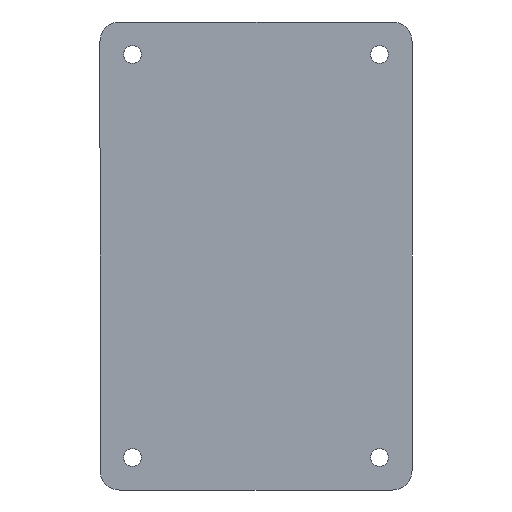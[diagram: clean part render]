
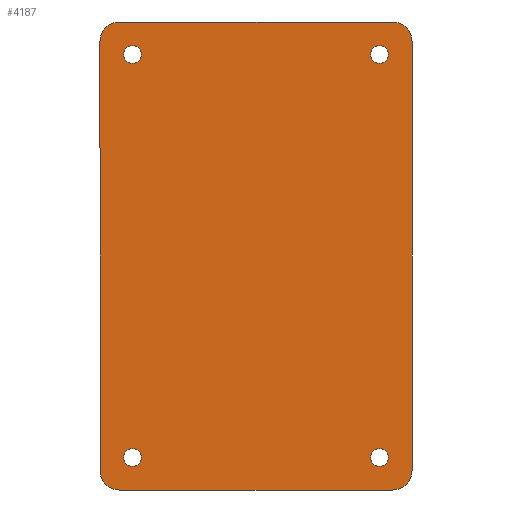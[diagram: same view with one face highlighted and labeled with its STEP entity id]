
A CAD part, front view. The second image highlights one B-rep face of the part: STEP entity #4187.
In plain terms, the highlighted planar face has unit normal (0, -1, 0).
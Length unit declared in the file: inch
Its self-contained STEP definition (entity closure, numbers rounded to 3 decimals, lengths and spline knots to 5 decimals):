
#13 = ORIENTED_EDGE ( 'NONE', *, *, #5991, .F. ) ;
#26 = CARTESIAN_POINT ( 'NONE',  ( 4.75, 0.19, -7.40625 ) ) ;
#40 = CARTESIAN_POINT ( 'NONE',  ( -5.25, 0.19, -9. ) ) ;
#157 = DIRECTION ( 'NONE',  ( 0., 0., -1. ) ) ;
#179 = CARTESIAN_POINT ( 'NONE',  ( -4.75, 0.19, -7.75 ) ) ;
#197 = VECTOR ( 'NONE', #6086, 39.37008 ) ;
#382 = DIRECTION ( 'NONE',  ( 0., -1., 0. ) ) ;
#435 = DIRECTION ( 'NONE',  ( 0., -1., 0. ) ) ;
#499 = VERTEX_POINT ( 'NONE', #4905 ) ;
#514 = AXIS2_PLACEMENT_3D ( 'NONE', #1951, #5851, #2512 ) ;
#516 = VERTEX_POINT ( 'NONE', #2374 ) ;
#557 = AXIS2_PLACEMENT_3D ( 'NONE', #4136, #777, #4694 ) ;
#563 = VERTEX_POINT ( 'NONE', #5242 ) ;
#704 = ORIENTED_EDGE ( 'NONE', *, *, #4863, .T. ) ;
#732 = DIRECTION ( 'NONE',  ( 0., 0., -1. ) ) ;
#777 = DIRECTION ( 'NONE',  ( 0., -1., 0. ) ) ;
#892 = ORIENTED_EDGE ( 'NONE', *, *, #3008, .T. ) ;
#905 = EDGE_CURVE ( 'NONE', #1303, #563, #1861, .T. ) ;
#923 = CARTESIAN_POINT ( 'NONE',  ( -4.75, 0.19, -7.40625 ) ) ;
#946 = CARTESIAN_POINT ( 'NONE',  ( -4.75, 0.19, 7.75 ) ) ;
#988 = CARTESIAN_POINT ( 'NONE',  ( -5.25, 0.19, 9. ) ) ;
#1027 = CIRCLE ( 'NONE', #3582, 0.34375 ) ;
#1042 = VERTEX_POINT ( 'NONE', #40 ) ;
#1043 = FACE_BOUND ( 'NONE', #4004, .T. ) ;
#1046 = DIRECTION ( 'NONE',  ( 0., 0., -1. ) ) ;
#1072 = CARTESIAN_POINT ( 'NONE',  ( -6., 0.19, 8.25 ) ) ;
#1131 = EDGE_CURVE ( 'NONE', #2453, #6253, #1340, .T. ) ;
#1177 = LINE ( 'NONE', #2776, #6937 ) ;
#1205 = FACE_BOUND ( 'NONE', #2310, .T. ) ;
#1303 = VERTEX_POINT ( 'NONE', #7091 ) ;
#1340 = CIRCLE ( 'NONE', #514, 0.34375 ) ;
#1358 = CARTESIAN_POINT ( 'NONE',  ( 4.75, 0.19, 7.40625 ) ) ;
#1369 = EDGE_CURVE ( 'NONE', #5912, #3814, #2572, .T. ) ;
#1516 = DIRECTION ( 'NONE',  ( 0., 0., -1. ) ) ;
#1583 = CARTESIAN_POINT ( 'NONE',  ( 5.25, 0.19, -9. ) ) ;
#1727 = VECTOR ( 'NONE', #5918, 39.37008 ) ;
#1769 = AXIS2_PLACEMENT_3D ( 'NONE', #2596, #6463, #3161 ) ;
#1823 = EDGE_LOOP ( 'NONE', ( #704, #892, #2556, #4800, #6687, #6181, #3858, #4132 ) ) ;
#1861 = LINE ( 'NONE', #1072, #197 ) ;
#1951 = CARTESIAN_POINT ( 'NONE',  ( 4.75, 0.19, -7.75 ) ) ;
#2085 = VECTOR ( 'NONE', #5352, 39.37008 ) ;
#2102 = EDGE_CURVE ( 'NONE', #499, #4709, #3570, .T. ) ;
#2110 = ORIENTED_EDGE ( 'NONE', *, *, #6891, .F. ) ;
#2242 = CIRCLE ( 'NONE', #3718, 0.75 ) ;
#2310 = EDGE_LOOP ( 'NONE', ( #3249, #3076 ) ) ;
#2374 = CARTESIAN_POINT ( 'NONE',  ( 6., 0.19, -8.25 ) ) ;
#2453 = VERTEX_POINT ( 'NONE', #5412 ) ;
#2462 = AXIS2_PLACEMENT_3D ( 'NONE', #6257, #2941, #6809 ) ;
#2512 = DIRECTION ( 'NONE',  ( 0., 0., -1. ) ) ;
#2556 = ORIENTED_EDGE ( 'NONE', *, *, #4604, .T. ) ;
#2572 = CIRCLE ( 'NONE', #3372, 0.34375 ) ;
#2596 = CARTESIAN_POINT ( 'NONE',  ( -5.25, 0.19, -8.25 ) ) ;
#2681 = CARTESIAN_POINT ( 'NONE',  ( 4.75, 0.19, 7.75 ) ) ;
#2699 = DIRECTION ( 'NONE',  ( 0., -1., 0. ) ) ;
#2745 = CARTESIAN_POINT ( 'NONE',  ( -4.75, 0.19, -7.75 ) ) ;
#2776 = CARTESIAN_POINT ( 'NONE',  ( -5.25, 0.19, -9. ) ) ;
#2827 = AXIS2_PLACEMENT_3D ( 'NONE', #6815, #3513, #157 ) ;
#2941 = DIRECTION ( 'NONE',  ( 0., -1., 0. ) ) ;
#3008 = EDGE_CURVE ( 'NONE', #1042, #7038, #1177, .T. ) ;
#3076 = ORIENTED_EDGE ( 'NONE', *, *, #7191, .F. ) ;
#3138 = ORIENTED_EDGE ( 'NONE', *, *, #1369, .F. ) ;
#3157 = VERTEX_POINT ( 'NONE', #6215 ) ;
#3161 = DIRECTION ( 'NONE',  ( 0., 0., -1. ) ) ;
#3215 = CARTESIAN_POINT ( 'NONE',  ( 5.25, 0.19, 9. ) ) ;
#3221 = ORIENTED_EDGE ( 'NONE', *, *, #5060, .F. ) ;
#3249 = ORIENTED_EDGE ( 'NONE', *, *, #4968, .F. ) ;
#3254 = DIRECTION ( 'NONE',  ( 0., 0., -1. ) ) ;
#3289 = AXIS2_PLACEMENT_3D ( 'NONE', #946, #4857, #1516 ) ;
#3304 = DIRECTION ( 'NONE',  ( 0., 0., -1. ) ) ;
#3372 = AXIS2_PLACEMENT_3D ( 'NONE', #2745, #6613, #3304 ) ;
#3402 = LINE ( 'NONE', #5373, #1727 ) ;
#3513 = DIRECTION ( 'NONE',  ( 0., -1., 0. ) ) ;
#3570 = LINE ( 'NONE', #3215, #2085 ) ;
#3574 = EDGE_LOOP ( 'NONE', ( #3138, #13 ) ) ;
#3582 = AXIS2_PLACEMENT_3D ( 'NONE', #179, #4096, #732 ) ;
#3718 = AXIS2_PLACEMENT_3D ( 'NONE', #6024, #2699, #6566 ) ;
#3734 = CARTESIAN_POINT ( 'NONE',  ( 5.25, 0.19, -8.25 ) ) ;
#3788 = CARTESIAN_POINT ( 'NONE',  ( -5.25, 0.19, 8.25 ) ) ;
#3814 = VERTEX_POINT ( 'NONE', #923 ) ;
#3821 = VERTEX_POINT ( 'NONE', #4378 ) ;
#3836 = CARTESIAN_POINT ( 'NONE',  ( 6., 0.19, 8.25 ) ) ;
#3858 = ORIENTED_EDGE ( 'NONE', *, *, #5030, .T. ) ;
#3892 = CARTESIAN_POINT ( 'NONE',  ( -4.75, 0.19, 8.09375 ) ) ;
#4004 = EDGE_LOOP ( 'NONE', ( #5650, #5750 ) ) ;
#4005 = FACE_BOUND ( 'NONE', #5125, .T. ) ;
#4096 = DIRECTION ( 'NONE',  ( 0., -1., 0. ) ) ;
#4132 = ORIENTED_EDGE ( 'NONE', *, *, #905, .T. ) ;
#4136 = CARTESIAN_POINT ( 'NONE',  ( 4.75, 0.19, 7.75 ) ) ;
#4187 = ADVANCED_FACE ( 'NONE', ( #1043, #6965, #4005, #1205, #6768 ), #7152, .T. ) ;
#4188 = VERTEX_POINT ( 'NONE', #3836 ) ;
#4194 = CIRCLE ( 'NONE', #5525, 0.34375 ) ;
#4300 = DIRECTION ( 'NONE',  ( 0., 0., -1. ) ) ;
#4347 = DIRECTION ( 'NONE',  ( 0., 0., -1. ) ) ;
#4378 = CARTESIAN_POINT ( 'NONE',  ( 4.75, 0.19, 8.09375 ) ) ;
#4384 = CARTESIAN_POINT ( 'NONE',  ( -5.25, 0.19, -8.25 ) ) ;
#4405 = DIRECTION ( 'NONE',  ( 0., -1., 0. ) ) ;
#4417 = AXIS2_PLACEMENT_3D ( 'NONE', #3788, #435, #4347 ) ;
#4476 = VERTEX_POINT ( 'NONE', #1358 ) ;
#4541 = CIRCLE ( 'NONE', #3289, 0.34375 ) ;
#4542 = CARTESIAN_POINT ( 'NONE',  ( -4.75, 0.19, -8.09375 ) ) ;
#4604 = EDGE_CURVE ( 'NONE', #7038, #516, #6865, .T. ) ;
#4694 = DIRECTION ( 'NONE',  ( 0., 0., -1. ) ) ;
#4709 = VERTEX_POINT ( 'NONE', #988 ) ;
#4800 = ORIENTED_EDGE ( 'NONE', *, *, #4880, .T. ) ;
#4857 = DIRECTION ( 'NONE',  ( 0., -1., 0. ) ) ;
#4863 = EDGE_CURVE ( 'NONE', #563, #1042, #6161, .T. ) ;
#4880 = EDGE_CURVE ( 'NONE', #516, #4188, #3402, .T. ) ;
#4905 = CARTESIAN_POINT ( 'NONE',  ( 5.25, 0.19, 9. ) ) ;
#4968 = EDGE_CURVE ( 'NONE', #3157, #6694, #4541, .T. ) ;
#5030 = EDGE_CURVE ( 'NONE', #4709, #1303, #5841, .T. ) ;
#5060 = EDGE_CURVE ( 'NONE', #3821, #4476, #4194, .T. ) ;
#5125 = EDGE_LOOP ( 'NONE', ( #2110, #3221 ) ) ;
#5242 = CARTESIAN_POINT ( 'NONE',  ( -6., 0.19, -8.25 ) ) ;
#5294 = AXIS2_PLACEMENT_3D ( 'NONE', #3734, #382, #4300 ) ;
#5352 = DIRECTION ( 'NONE',  ( -1., 0., 0. ) ) ;
#5373 = CARTESIAN_POINT ( 'NONE',  ( 6., 0.19, -8.25 ) ) ;
#5412 = CARTESIAN_POINT ( 'NONE',  ( 4.75, 0.19, -8.09375 ) ) ;
#5479 = CIRCLE ( 'NONE', #2462, 0.34375 ) ;
#5525 = AXIS2_PLACEMENT_3D ( 'NONE', #2681, #6552, #3254 ) ;
#5636 = CIRCLE ( 'NONE', #557, 0.34375 ) ;
#5650 = ORIENTED_EDGE ( 'NONE', *, *, #1131, .F. ) ;
#5750 = ORIENTED_EDGE ( 'NONE', *, *, #5953, .F. ) ;
#5841 = CIRCLE ( 'NONE', #4417, 0.75 ) ;
#5851 = DIRECTION ( 'NONE',  ( 0., -1., 0. ) ) ;
#5912 = VERTEX_POINT ( 'NONE', #4542 ) ;
#5918 = DIRECTION ( 'NONE',  ( 0., 0., 1. ) ) ;
#5953 = EDGE_CURVE ( 'NONE', #6253, #2453, #5479, .T. ) ;
#5991 = EDGE_CURVE ( 'NONE', #3814, #5912, #1027, .T. ) ;
#6024 = CARTESIAN_POINT ( 'NONE',  ( 5.25, 0.19, 8.25 ) ) ;
#6086 = DIRECTION ( 'NONE',  ( 0., 0., -1. ) ) ;
#6148 = AXIS2_PLACEMENT_3D ( 'NONE', #4384, #4405, #1046 ) ;
#6161 = CIRCLE ( 'NONE', #1769, 0.75 ) ;
#6181 = ORIENTED_EDGE ( 'NONE', *, *, #2102, .T. ) ;
#6215 = CARTESIAN_POINT ( 'NONE',  ( -4.75, 0.19, 7.40625 ) ) ;
#6223 = CIRCLE ( 'NONE', #2827, 0.34375 ) ;
#6253 = VERTEX_POINT ( 'NONE', #26 ) ;
#6257 = CARTESIAN_POINT ( 'NONE',  ( 4.75, 0.19, -7.75 ) ) ;
#6463 = DIRECTION ( 'NONE',  ( 0., -1., 0. ) ) ;
#6552 = DIRECTION ( 'NONE',  ( 0., -1., 0. ) ) ;
#6560 = EDGE_CURVE ( 'NONE', #4188, #499, #2242, .T. ) ;
#6566 = DIRECTION ( 'NONE',  ( 0., 0., -1. ) ) ;
#6613 = DIRECTION ( 'NONE',  ( 0., -1., 0. ) ) ;
#6642 = DIRECTION ( 'NONE',  ( 1., 0., 0. ) ) ;
#6687 = ORIENTED_EDGE ( 'NONE', *, *, #6560, .T. ) ;
#6694 = VERTEX_POINT ( 'NONE', #3892 ) ;
#6768 = FACE_OUTER_BOUND ( 'NONE', #1823, .T. ) ;
#6809 = DIRECTION ( 'NONE',  ( 0., 0., -1. ) ) ;
#6815 = CARTESIAN_POINT ( 'NONE',  ( -4.75, 0.19, 7.75 ) ) ;
#6865 = CIRCLE ( 'NONE', #5294, 0.75 ) ;
#6891 = EDGE_CURVE ( 'NONE', #4476, #3821, #5636, .T. ) ;
#6937 = VECTOR ( 'NONE', #6642, 39.37008 ) ;
#6965 = FACE_BOUND ( 'NONE', #3574, .T. ) ;
#7038 = VERTEX_POINT ( 'NONE', #1583 ) ;
#7091 = CARTESIAN_POINT ( 'NONE',  ( -6., 0.19, 8.25 ) ) ;
#7152 = PLANE ( 'NONE',  #6148 ) ;
#7191 = EDGE_CURVE ( 'NONE', #6694, #3157, #6223, .T. ) ;
